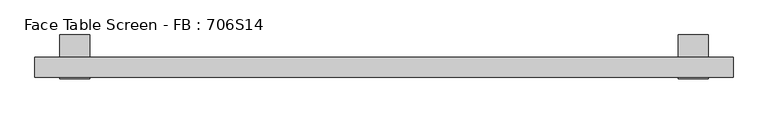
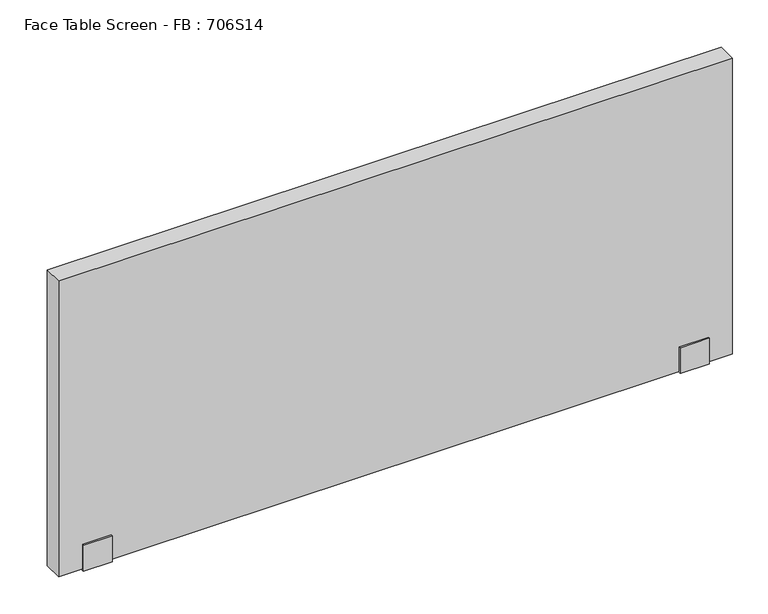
"""IFC4 building model written with IfcOpenShell, lengths in millimetres: furniture geometry, Face Table Screen - FB : 706S14."""

from ifc_helpers import new_model, si_unit, frame, origin, place, context, project, spatial, polyline, outline, extrude, source, transform, mapped, element, save


def face_table_screen_fb_706s14_fd4735a2(model_context):
    return source(origin(), model_context, "Body", "SweptSolid", [
        extrude(outline(polyline([(-42.9999947, -156.0), (-42.9999997, -99.0433898), (-40.0, -99.0433898), (-40.0, -153.0), (0.0, -153.0), (0.0, -22.0), (45.0, -22.0), (45.0, -25.0433898), (3.0000062, -25.0433898), (2.9999947, -156.0), (-42.9999947, -156.0)])), frame((609.9863751, 0.0, 0.0), z_axis=(1.0, 0.0, 0.0), x_axis=(0.0, 1.0, 0.0)), (0.0, 0.0, 1.0), 60.0),
        extrude(outline(polyline([(-42.9999947, -156.0), (-42.9999997, -99.0433898), (-40.0, -99.0433898), (-40.0, -153.0), (0.0, -153.0), (0.0, -22.0), (45.0, -22.0), (45.0, -25.0433898), (3.0000062, -25.0433898), (2.9999947, -156.0), (-42.9999947, -156.0)])), frame((-630.0136249, 0.0, 0.0), z_axis=(1.0, 0.0, 0.0), x_axis=(0.0, 1.0, 0.0)), (0.0, 0.0, 1.0), 60.0),
        extrude(outline(polyline([(719.9863751, -40.0), (-680.0136249, -40.0), (-680.0136249, 0.0), (719.9863751, 0.0), (719.9863751, -40.0)])), frame((0.0, 0.0, -153.0), z_axis=(0.0, 0.0, 1.0), x_axis=(1.0, 0.0, 0.0)), (0.0, 0.0, 1.0), 650.0),
    ])


if __name__ == "__main__":
    model = new_model("IFC4")
    model_context = context("Model", 3, world=origin())
    ifc_project = project(units=[si_unit("LENGTHUNIT", "METRE", prefix="MILLI")], contexts=[model_context])
    site = spatial("IfcSite", under=ifc_project)
    building = spatial("IfcBuilding", under=site)
    placement = place(None, origin())
    face_table_screen_fb_706s14_shape = face_table_screen_fb_706s14_fd4735a2(model_context)
    element("IfcFurniture", 1, ObjectType="Face Table Screen - FB : 706S14", at=placement, inside=building, context=model_context, shape_type="MappedRepresentation", body=[
        mapped(face_table_screen_fb_706s14_shape, transform((0.0, 0.0, 0.0), x_axis=(1.0, 0.0, 0.0), y_axis=(0.0, 1.0, 0.0), z_axis=(0.0, 0.0, 1.0))),
    ])
    save(model, "model.ifc")
